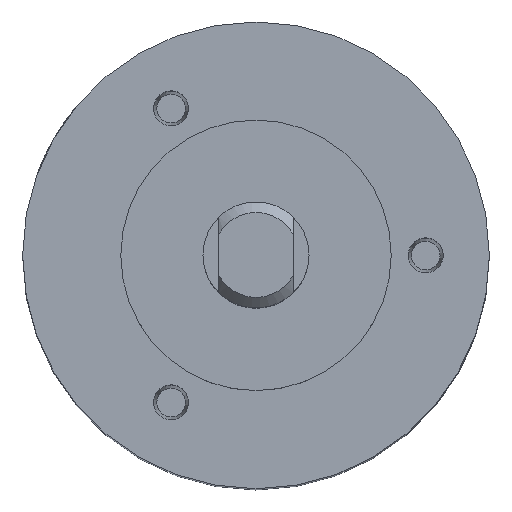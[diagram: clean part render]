
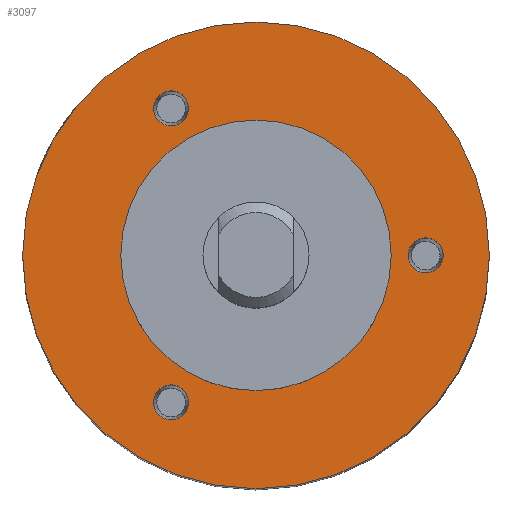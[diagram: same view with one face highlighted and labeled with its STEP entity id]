
A CAD part, top view. The second image highlights one B-rep face of the part: STEP entity #3097.
In plain terms, the highlighted planar face has unit normal (0, 0, 1).
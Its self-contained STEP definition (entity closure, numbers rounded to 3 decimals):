
#528 = EDGE_LOOP ( 'NONE', ( #5939 ) ) ;
#570 = EDGE_LOOP ( 'NONE', ( #5943 ) ) ;
#571 = EDGE_LOOP ( 'NONE', ( #5942 ) ) ;
#572 = EDGE_LOOP ( 'NONE', ( #5940 ) ) ;
#573 = EDGE_LOOP ( 'NONE', ( #5941 ) ) ;
#988 = EDGE_CURVE ( 'NONE', #6497, #6497, #2402, .T. ) ;
#993 = EDGE_CURVE ( 'NONE', #6507, #6507, #2408, .T. ) ;
#995 = EDGE_CURVE ( 'NONE', #6509, #6509, #2411, .T. ) ;
#998 = EDGE_CURVE ( 'NONE', #6511, #6511, #2416, .T. ) ;
#1014 = EDGE_CURVE ( 'NONE', #6517, #6517, #2439, .T. ) ;
#1200 = AXIS2_PLACEMENT_3D ( 'NONE', #4257, #4265, #4266 ) ;
#1207 = AXIS2_PLACEMENT_3D ( 'NONE', #4239, #4246, #4247 ) ;
#1215 = AXIS2_PLACEMENT_3D ( 'NONE', #4271, #4272, #4273 ) ;
#1220 = AXIS2_PLACEMENT_3D ( 'NONE', #4254, #4260, #4261 ) ;
#1228 = AXIS2_PLACEMENT_3D ( 'NONE', #4434, #4437, #4438 ) ;
#1413 = AXIS2_PLACEMENT_3D ( 'NONE', #5529, #5540, #5542 ) ;
#2402 = CIRCLE ( 'NONE', #1207, 1.65 ) ;
#2408 = CIRCLE ( 'NONE', #1220, 1.65 ) ;
#2411 = CIRCLE ( 'NONE', #1200, 1.65 ) ;
#2416 = CIRCLE ( 'NONE', #1215, 12.75 ) ;
#2439 = CIRCLE ( 'NONE', #1228, 22. ) ;
#2817 = FACE_BOUND ( 'NONE', #572, .T. ) ;
#2818 = FACE_OUTER_BOUND ( 'NONE', #528, .T. ) ;
#2819 = FACE_BOUND ( 'NONE', #570, .T. ) ;
#2822 = FACE_BOUND ( 'NONE', #573, .T. ) ;
#2824 = FACE_BOUND ( 'NONE', #571, .T. ) ;
#3097 = ADVANCED_FACE ( 'NONE', ( #2818, #2817, #2822, #2824, #2819 ), #5535, .T. ) ;
#4239 = CARTESIAN_POINT ( 'NONE',  ( -8., 13.856, 68.5 ) ) ;
#4246 = DIRECTION ( 'NONE',  ( 0., 0., -1. ) ) ;
#4247 = DIRECTION ( 'NONE',  ( 0., -1., 0. ) ) ;
#4254 = CARTESIAN_POINT ( 'NONE',  ( -8., -13.856, 68.5 ) ) ;
#4257 = CARTESIAN_POINT ( 'NONE',  ( 16., 0., 68.5 ) ) ;
#4260 = DIRECTION ( 'NONE',  ( 0., 0., -1. ) ) ;
#4261 = DIRECTION ( 'NONE',  ( 0., -1., 0. ) ) ;
#4265 = DIRECTION ( 'NONE',  ( 0., 0., -1. ) ) ;
#4266 = DIRECTION ( 'NONE',  ( 0., -1., 0. ) ) ;
#4271 = CARTESIAN_POINT ( 'NONE',  ( 0., 0., 68.5 ) ) ;
#4272 = DIRECTION ( 'NONE',  ( 0., 0., -1. ) ) ;
#4273 = DIRECTION ( 'NONE',  ( 0., 1., 0. ) ) ;
#4434 = CARTESIAN_POINT ( 'NONE',  ( 0., 0., 68.5 ) ) ;
#4437 = DIRECTION ( 'NONE',  ( 0., 0., -1. ) ) ;
#4438 = DIRECTION ( 'NONE',  ( 0., 1., 0. ) ) ;
#5529 = CARTESIAN_POINT ( 'NONE',  ( 0., 0., 68.5 ) ) ;
#5535 = PLANE ( 'NONE',  #1413 ) ;
#5540 = DIRECTION ( 'NONE',  ( 0., 0., 1. ) ) ;
#5542 = DIRECTION ( 'NONE',  ( 0., 1., 0. ) ) ;
#5939 = ORIENTED_EDGE ( 'NONE', *, *, #1014, .F. ) ;
#5940 = ORIENTED_EDGE ( 'NONE', *, *, #998, .T. ) ;
#5941 = ORIENTED_EDGE ( 'NONE', *, *, #995, .T. ) ;
#5942 = ORIENTED_EDGE ( 'NONE', *, *, #988, .T. ) ;
#5943 = ORIENTED_EDGE ( 'NONE', *, *, #993, .T. ) ;
#6497 = VERTEX_POINT ( 'NONE', #6498 ) ;
#6498 = CARTESIAN_POINT ( 'NONE',  ( -8., 12.206, 68.5 ) ) ;
#6507 = VERTEX_POINT ( 'NONE', #6508 ) ;
#6508 = CARTESIAN_POINT ( 'NONE',  ( -8., -15.506, 68.5 ) ) ;
#6509 = VERTEX_POINT ( 'NONE', #6510 ) ;
#6510 = CARTESIAN_POINT ( 'NONE',  ( 16., -1.65, 68.5 ) ) ;
#6511 = VERTEX_POINT ( 'NONE', #6512 ) ;
#6512 = CARTESIAN_POINT ( 'NONE',  ( 0., 12.75, 68.5 ) ) ;
#6517 = VERTEX_POINT ( 'NONE', #6518 ) ;
#6518 = CARTESIAN_POINT ( 'NONE',  ( 0., 22., 68.5 ) ) ;
